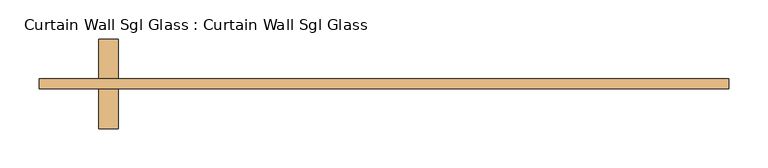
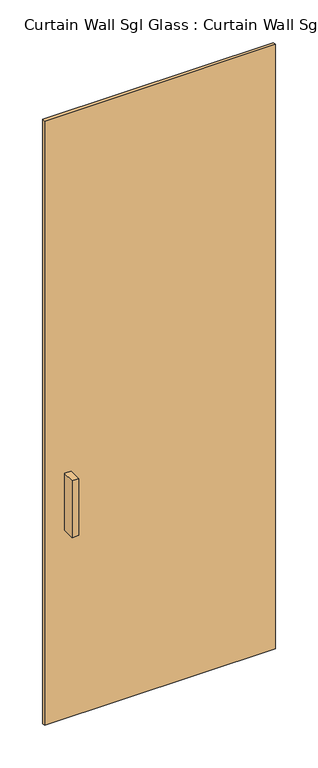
"""IFC4 building model written with IfcOpenShell, lengths in millimetres: door geometry, Curtain Wall Sgl Glass : Curtain Wall Sgl Glass."""

from ifc_helpers import new_model, si_unit, frame, origin, origin_with_axes, place, context, project, spatial, polyline, outline, extrude, source, transform, mapped, element, save


def curtain_wall_sgl_glass_curtain_wall_sgl_glass_1c17b042(model_context):
    return source(origin(), model_context, "Body", "SweptSolid", [
        extrude(outline(polyline([(-339.725, 12.7), (-339.725, -38.1), (-365.125, -38.1), (-365.125, 12.7), (-339.725, 12.7)])), frame((0.0, 0.0, 762.0), z_axis=(0.0, 0.0, 1.0), x_axis=(1.0, 0.0, 0.0)), (0.0, 0.0, 1.0), 228.6),
        extrude(outline(polyline([(-365.125, -101.6), (-365.125, -50.8), (-339.725, -50.8), (-339.725, -101.6), (-365.125, -101.6)])), frame((0.0, 0.0, 762.0), z_axis=(0.0, 0.0, 1.0), x_axis=(1.0, 0.0, 0.0)), (0.0, 0.0, 1.0), 228.6),
        extrude(outline(polyline([(441.325, -50.8), (-441.325, -50.8), (-441.325, -38.1), (441.325, -38.1), (441.325, -50.8)])), origin_with_axes(), (0.0, 0.0, 1.0), 2438.4),
    ])


if __name__ == "__main__":
    model = new_model("IFC4")
    model_context = context("Model", 3, world=origin())
    ifc_project = project(units=[si_unit("LENGTHUNIT", "METRE", prefix="MILLI")], contexts=[model_context])
    site = spatial("IfcSite", under=ifc_project)
    building = spatial("IfcBuilding", under=site)
    placement = place(None, origin())
    curtain_wall_sgl_glass_curtain_wall_sgl_glass_shape = curtain_wall_sgl_glass_curtain_wall_sgl_glass_1c17b042(model_context)
    element("IfcDoor", 1, ObjectType="Curtain Wall Sgl Glass : Curtain Wall Sgl Glass", at=placement, inside=building, context=model_context, shape_type="MappedRepresentation", body=[
        mapped(curtain_wall_sgl_glass_curtain_wall_sgl_glass_shape, transform((0.0, 0.0, 0.0), x_axis=(1.0, 0.0, 0.0), y_axis=(0.0, 1.0, 0.0), z_axis=(0.0, 0.0, 1.0))),
    ])
    save(model, "model.ifc")
